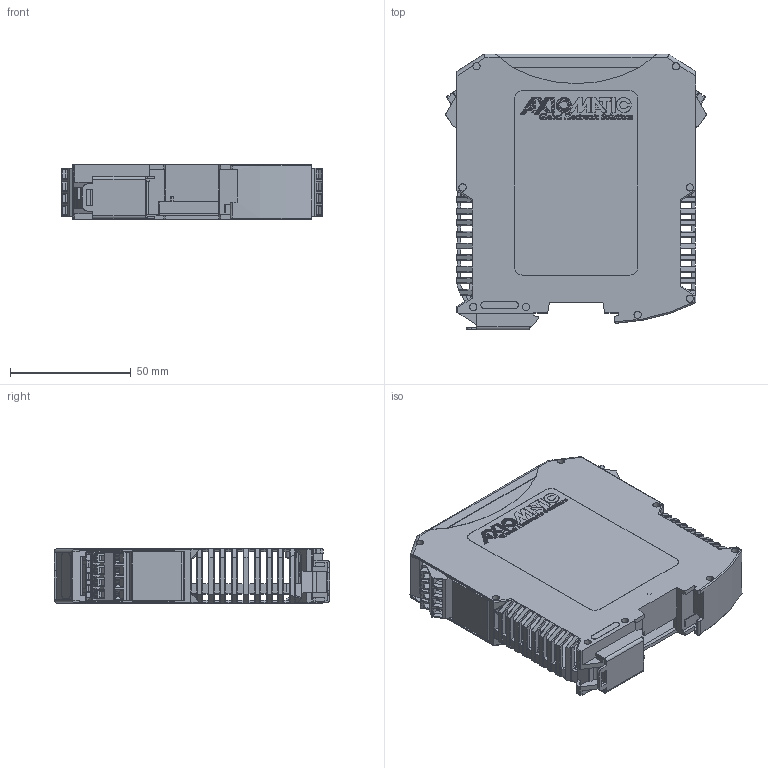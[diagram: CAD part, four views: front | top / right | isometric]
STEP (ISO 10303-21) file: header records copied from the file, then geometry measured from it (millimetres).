
FILE_DESCRIPTION(/* description */ (''),/* implementation_level */ '2;1');
FILE_NAME(/* name */ 'S:\Projects\PS-24-120-30W-I, AX083500, Proj_17017\MECHANICAL\rev 1\ME-MAX-two connectors-no-LED.stp',/* time_stamp */ '2018-08-02T17:17:14-04:00',/* author */ ('tfisher'),/* organization */ (''),/* preprocessor_version */ 'ST-DEVELOPER v15.2',/* originating_system */ 'Autodesk Inventor 2014',/* authorisation */ '');
FILE_SCHEMA (('AUTOMOTIVE_DESIGN { 1 0 10303 214 3 1 1 }'));
Length unit declared in the file: inch
Products named in the file (1): ME-MAX-two connectors-no-LED
Bounding box: 108.15 x 113.95 x 22.83 mm (x, y, z)
Volume: 52141.3 mm3; surface area: 78642.5 mm2
Topology: 1 solids, 16 shells, 5541 faces, 15238 edges, 9864 vertices
Faces by surface type: plane 4219, cylinder 915, bspline 295, cone 46, torus 34, sphere 32
Full cylindrical faces by diameter (mm): 0.238 x2, 1.35 x2, 1.4 x13, 1.5 x8, 1.6 x1, 2.2 x8, 2.8 x17, 3 x21, 4.5 x1
Entity records: 181316 total; most frequent: CARTESIAN_POINT 35957, ORIENTED_EDGE 30174, DIRECTION 26924, EDGE_CURVE 15087, LINE 12362, VECTOR 12362, VERTEX_POINT 9826, AXIS2_PLACEMENT_3D 7281
